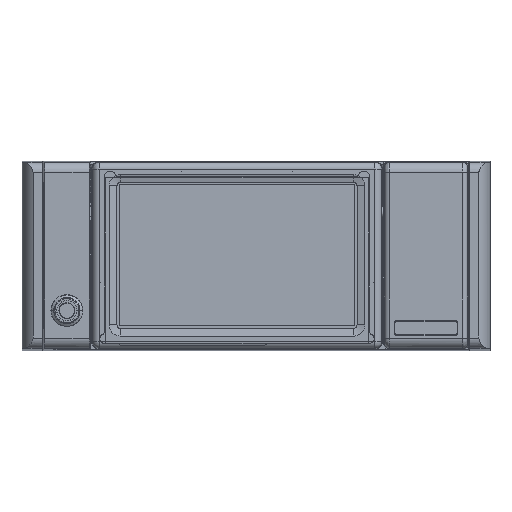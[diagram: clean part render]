
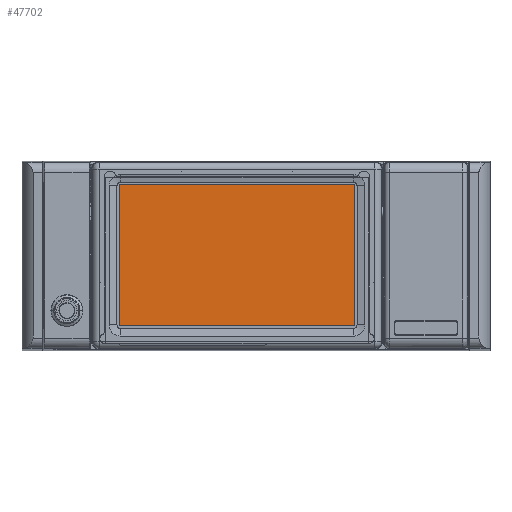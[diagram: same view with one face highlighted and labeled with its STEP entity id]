
A CAD part, top view. The second image highlights one B-rep face of the part: STEP entity #47702.
In plain terms, the highlighted planar face has unit normal (0, 0, 1).
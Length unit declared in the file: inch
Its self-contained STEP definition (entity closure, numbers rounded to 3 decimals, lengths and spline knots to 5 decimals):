
#1391 = VERTEX_POINT ( 'NONE', #12462 ) ;
#5241 = LINE ( 'NONE', #50499, #61318 ) ;
#6027 = DIRECTION ( 'NONE',  ( 0., 0., -1. ) ) ;
#6506 = DIRECTION ( 'NONE',  ( -1., 0., 0. ) ) ;
#9547 = VERTEX_POINT ( 'NONE', #67537 ) ;
#12462 = CARTESIAN_POINT ( 'NONE',  ( -2.12598, 1.36181, 0.18661 ) ) ;
#13675 = DIRECTION ( 'NONE',  ( 0., -1., 0. ) ) ;
#15426 = CARTESIAN_POINT ( 'NONE',  ( 0., 0., 0.18661 ) ) ;
#20412 = EDGE_CURVE ( 'NONE', #38868, #26812, #80545, .T. ) ;
#20900 = DIRECTION ( 'NONE',  ( 1., 0., 0. ) ) ;
#21319 = EDGE_CURVE ( 'NONE', #9547, #38868, #78214, .T. ) ;
#26812 = VERTEX_POINT ( 'NONE', #31216 ) ;
#31216 = CARTESIAN_POINT ( 'NONE',  ( 2.12598, 1.36181, 0.18661 ) ) ;
#33059 = EDGE_LOOP ( 'NONE', ( #75100, #46542, #41514, #68384 ) ) ;
#34377 = PLANE ( 'NONE',  #67732 ) ;
#38868 = VERTEX_POINT ( 'NONE', #56503 ) ;
#41514 = ORIENTED_EDGE ( 'NONE', *, *, #90408, .T. ) ;
#46542 = ORIENTED_EDGE ( 'NONE', *, *, #47812, .T. ) ;
#47702 = ADVANCED_FACE ( 'NONE', ( #95406 ), #34377, .F. ) ;
#47812 = EDGE_CURVE ( 'NONE', #26812, #1391, #97900, .T. ) ;
#49294 = DIRECTION ( 'NONE',  ( 0., 1., 0. ) ) ;
#50499 = CARTESIAN_POINT ( 'NONE',  ( -2.12598, -1.18937, 0.18661 ) ) ;
#56503 = CARTESIAN_POINT ( 'NONE',  ( 2.12598, -1.18937, 0.18661 ) ) ;
#61318 = VECTOR ( 'NONE', #13675, 39.37008 ) ;
#64716 = CARTESIAN_POINT ( 'NONE',  ( 2.12598, -1.18937, 0.18661 ) ) ;
#66259 = VECTOR ( 'NONE', #49294, 39.37008 ) ;
#67537 = CARTESIAN_POINT ( 'NONE',  ( -2.12598, -1.18937, 0.18661 ) ) ;
#67732 = AXIS2_PLACEMENT_3D ( 'NONE', #15426, #6027, #6506 ) ;
#68384 = ORIENTED_EDGE ( 'NONE', *, *, #21319, .T. ) ;
#68608 = DIRECTION ( 'NONE',  ( -1., 0., 0. ) ) ;
#69302 = VECTOR ( 'NONE', #68608, 39.37008 ) ;
#75100 = ORIENTED_EDGE ( 'NONE', *, *, #20412, .T. ) ;
#78214 = LINE ( 'NONE', #88450, #82296 ) ;
#80545 = LINE ( 'NONE', #64716, #66259 ) ;
#82296 = VECTOR ( 'NONE', #20900, 39.37008 ) ;
#88450 = CARTESIAN_POINT ( 'NONE',  ( -2.12598, -1.18937, 0.18661 ) ) ;
#90408 = EDGE_CURVE ( 'NONE', #1391, #9547, #5241, .T. ) ;
#95406 = FACE_OUTER_BOUND ( 'NONE', #33059, .T. ) ;
#97399 = CARTESIAN_POINT ( 'NONE',  ( -2.12598, 1.36181, 0.18661 ) ) ;
#97900 = LINE ( 'NONE', #97399, #69302 ) ;
